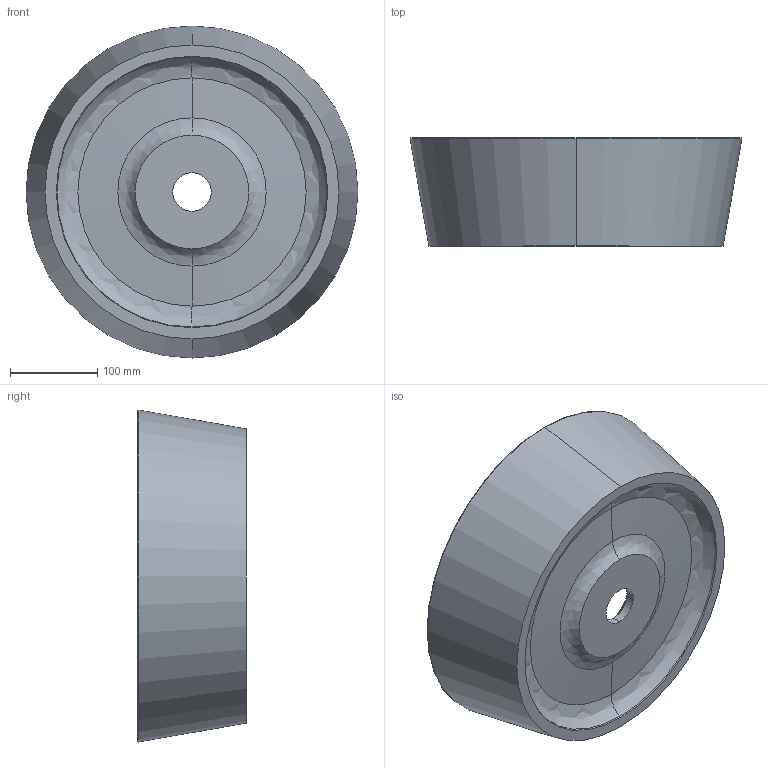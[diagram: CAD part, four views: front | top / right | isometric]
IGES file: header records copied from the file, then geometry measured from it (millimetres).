
Start section: SolidWorks IGES file using analytic representation for surfaces
Global section: file name: C:\Users\katarzynawe\Desktop\WB BARI.IGS; native system: SolidWorks 2014; preprocessor: SolidWorks 2014; author: katarzynawe; date: 160209.121612; units: millimetre
Bounding box: 379.59 x 124 x 379.61 mm (x, y, z)
Volume: 3095504.5 mm3; surface area: 427498.1 mm2
Topology: 1 solids, 1 shells, 29 faces, 58 edges, 32 vertices
Faces by surface type: revolution 26, plane 3
